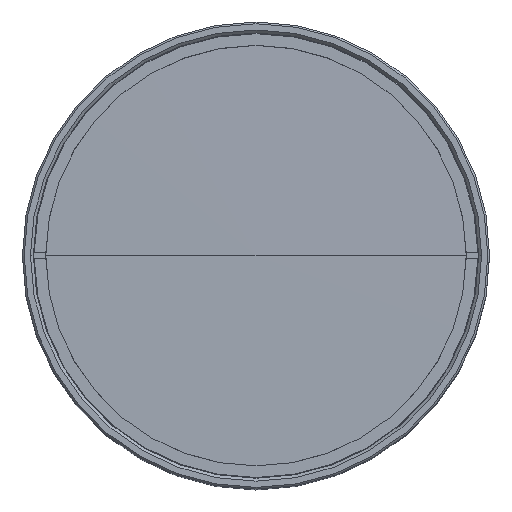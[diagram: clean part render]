
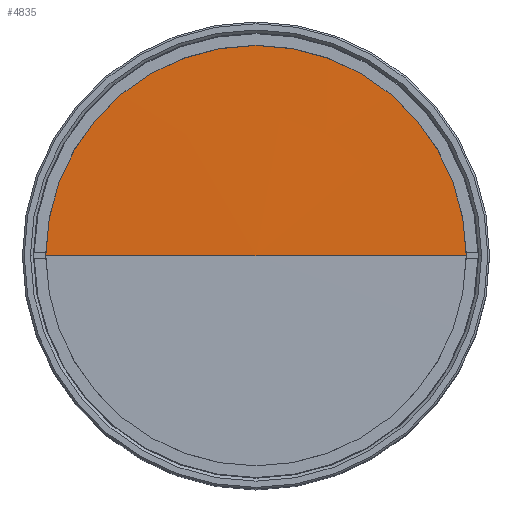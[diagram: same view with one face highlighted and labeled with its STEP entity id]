
A CAD part, top view. The second image highlights one B-rep face of the part: STEP entity #4835.
In plain terms, the highlighted conical face has half-angle 89.849 degrees and reference radius 380000 mm.
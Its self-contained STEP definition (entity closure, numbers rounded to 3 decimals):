
#352 = FACE_OUTER_BOUND ( 'NONE', #5020, .T. ) ;
#1000 = ORIENTED_EDGE ( 'NONE', *, *, #10120, .F. ) ;
#1935 = DIRECTION ( 'NONE',  ( 0., 0., -1. ) ) ;
#2200 = ORIENTED_EDGE ( 'NONE', *, *, #11133, .T. ) ;
#3866 = CONICAL_SURFACE ( 'NONE', #13966, 380000., 1.568 ) ;
#4223 = CIRCLE ( 'NONE', #10890, 36.095 ) ;
#4238 = LINE ( 'NONE', #14948, #15664 ) ;
#4835 = ADVANCED_FACE ( 'NONE', ( #352 ), #3866, .T. ) ;
#5020 = EDGE_LOOP ( 'NONE', ( #1000, #16404, #2200 ) ) ;
#5306 = DIRECTION ( 'NONE',  ( 1., 0., -0.003 ) ) ;
#6044 = DIRECTION ( 'NONE',  ( -1., 0., -0.003 ) ) ;
#6820 = CARTESIAN_POINT ( 'NONE',  ( 0., 0., 158.219 ) ) ;
#6971 = CARTESIAN_POINT ( 'NONE',  ( 0., 0., 158.124 ) ) ;
#8450 = DIRECTION ( 'NONE',  ( 1., 0., 0. ) ) ;
#8537 = VERTEX_POINT ( 'NONE', #13771 ) ;
#8818 = VERTEX_POINT ( 'NONE', #16777 ) ;
#10120 = EDGE_CURVE ( 'NONE', #15796, #8537, #4238, .T. ) ;
#10890 = AXIS2_PLACEMENT_3D ( 'NONE', #6971, #17373, #8450 ) ;
#11133 = EDGE_CURVE ( 'NONE', #8818, #8537, #4223, .T. ) ;
#13771 = CARTESIAN_POINT ( 'NONE',  ( -36.095, 0., 158.124 ) ) ;
#13966 = AXIS2_PLACEMENT_3D ( 'NONE', #17123, #1935, #15901 ) ;
#14222 = CARTESIAN_POINT ( 'NONE',  ( 0., 0., 158.219 ) ) ;
#14948 = CARTESIAN_POINT ( 'NONE',  ( 0., 0., 158.219 ) ) ;
#15271 = EDGE_CURVE ( 'NONE', #15796, #8818, #18519, .T. ) ;
#15664 = VECTOR ( 'NONE', #6044, 1000. ) ;
#15796 = VERTEX_POINT ( 'NONE', #6820 ) ;
#15901 = DIRECTION ( 'NONE',  ( -1., 0., 0. ) ) ;
#16404 = ORIENTED_EDGE ( 'NONE', *, *, #15271, .T. ) ;
#16777 = CARTESIAN_POINT ( 'NONE',  ( 36.095, 0., 158.124 ) ) ;
#17123 = CARTESIAN_POINT ( 'NONE',  ( 0., 0., -841.781 ) ) ;
#17373 = DIRECTION ( 'NONE',  ( 0., 0., 1. ) ) ;
#18519 = LINE ( 'NONE', #14222, #18961 ) ;
#18961 = VECTOR ( 'NONE', #5306, 1000. ) ;
